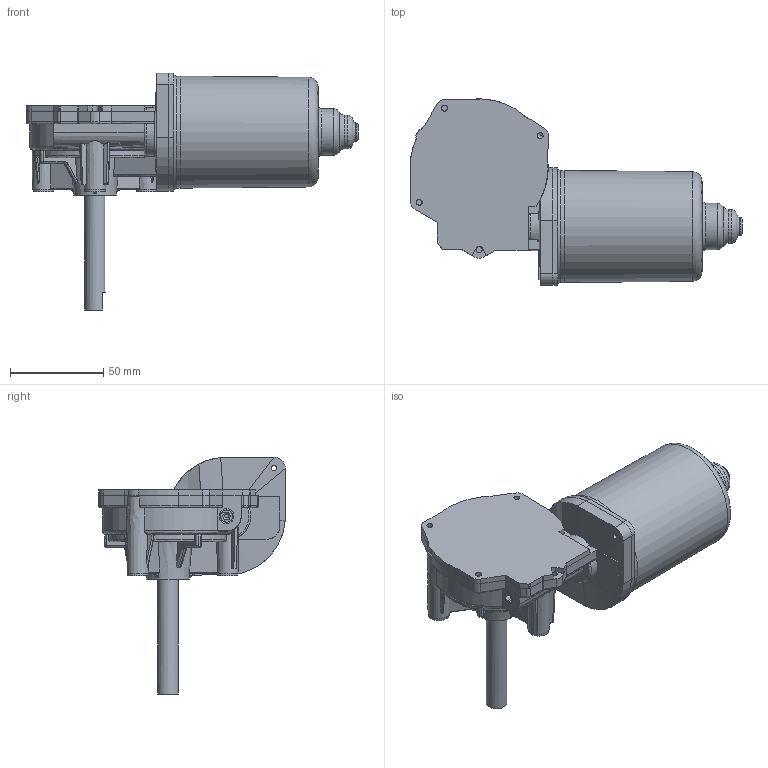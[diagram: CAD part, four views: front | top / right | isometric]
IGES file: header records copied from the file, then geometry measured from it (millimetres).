
Global section: file name: No Iges File Name specified; native system: AutoDesk Inventor R9; preprocessor: AutoDesk Inventor Iges Exporter R9; author: No Author specified; organization: No Organization specified; date: 20041027.153706; units: millimetre
Bounding box: 177.91 x 99.86 x 127.47 mm (x, y, z)
Surface area: 88598.4 mm2 (no closed solid volume)
Topology: 0 solids, 1 shells, 448 faces, 2375 edges, 2305 vertices
Faces by surface type: plane 208, revolution 194, bspline 46
